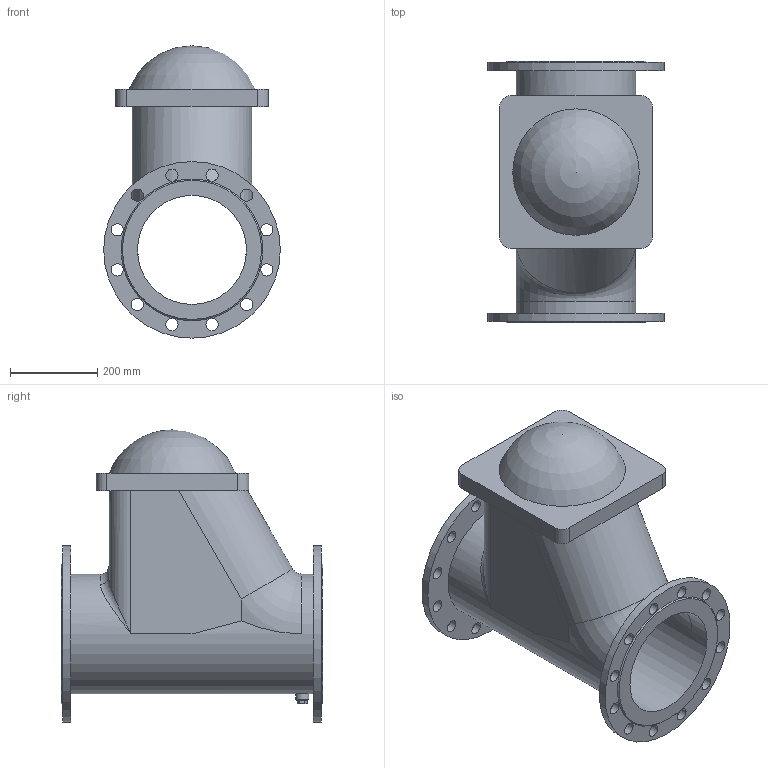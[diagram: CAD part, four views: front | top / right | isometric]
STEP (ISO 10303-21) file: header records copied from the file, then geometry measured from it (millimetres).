
FILE_DESCRIPTION(('STEP AP203'), '1');
FILE_NAME('Êëàïàí îáðàòíûé øàðîâîé ôëàíöåâûé 012F.Z DN250 PN16', '', ('UNSPECIFIED'), ('UNSPECIFIED'), 'ASCON STEP Converter 1.6', 'ASCON Math Kernel', '');
FILE_SCHEMA(('CONFIG_CONTROL_DESIGN'));
Length unit declared in the file: millimetre
Bounding box: 405 x 600 x 670.5 mm (x, y, z)
Volume: 31313704.3 mm3; surface area: 1896959.9 mm2
Topology: 1 solids, 1 shells, 78 faces, 200 edges, 130 vertices
Faces by surface type: cylinder 38, plane 32, torus 3, bspline 2, cone 2, sphere 1
Full cylindrical faces by diameter (mm): 25 x1, 28 x24, 30 x1, 250 x1, 274 x1, 405 x2
Entity records: 4118 total; most frequent: CARTESIAN_POINT 1588, DIRECTION 380, ORIENTED_EDGE 324, EDGE_LOOP 171, AXIS2_PLACEMENT_3D 162, EDGE_CURVE 162, VERTEX_POINT 129, FACE_BOUND 106
